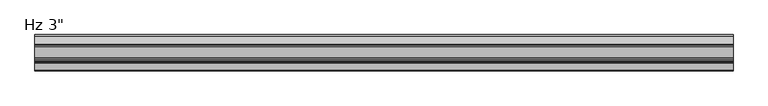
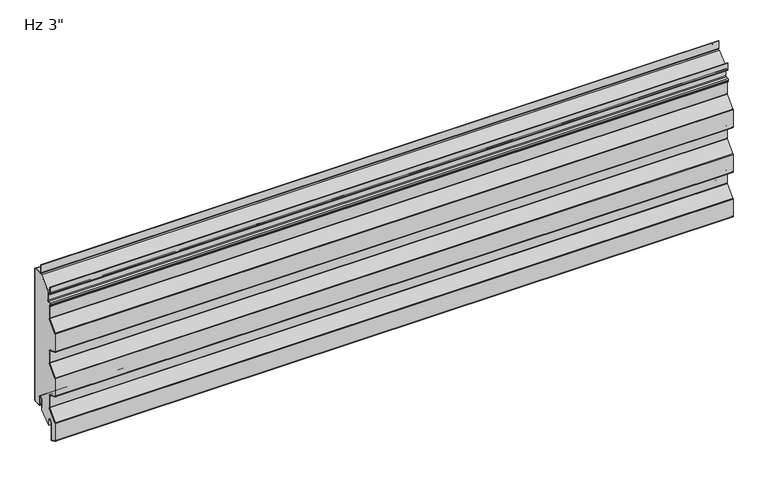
"""IFC4 building model written with IfcOpenShell, lengths in millimetres: plate geometry."""

from ifc_helpers import new_model, si_unit, point, frame, frame_2d, origin, place, context, project, spatial, polyline, circle_curve, trimmed, segment, composite_curve, outline, extrude, source, transform, mapped, element, save


def plate_03a4a3e5(model_context):
    return source(origin(), model_context, "Body", "SweptSolid", [
        extrude(outline(composite_curve([segment(polyline([(-26.4011912, 19.05), (-26.4011912, -3.1976612), (-49.233822, -23.01875), (-51.3886912, -23.01875), (-51.3886912, -11.90625)]), True, "CONTINUOUS"), segment(trimmed(circle_curve(frame_2d((-56.3574412, -11.90625)), 4.96875), [point((-51.3886912, -11.90625))], [point((-61.3261912, -11.90625))], True, "CARTESIAN"), True, "CONTINUOUS"), segment(polyline([(-61.3261912, -11.90625), (-61.3261912, -48.8194049)]), True, "CONTINUOUS"), segment(trimmed(circle_curve(frame_2d((-62.7074412, -48.8194049)), 1.38125), [point((-61.3261912, -48.8194049))], [point((-63.2666208, -50.0824052))], False, "CARTESIAN"), True, "CONTINUOUS"), segment(polyline([(-63.2666208, -50.0824052), (-74.3779296, -45.1629946)]), True, "CONTINUOUS"), segment(trimmed(circle_curve(frame_2d((-73.81875, -43.8999943)), 1.38125), [point((-74.3779296, -45.1629946))], [point((-75.2, -43.8999943))], False, "CARTESIAN"), True, "CONTINUOUS"), segment(polyline([(-75.2, -43.8999943), (-75.2, -5.0536946)]), True, "CONTINUOUS"), segment(trimmed(circle_curve(frame_2d((-73.1012, -5.0536946)), 2.0988), [point((-75.2, -5.0536946))], [point((-74.6092077, -3.5939431))], False, "CARTESIAN"), True, "CONTINUOUS"), segment(polyline([(-74.6092077, -3.5939431), (-54.4145567, 17.2682996)]), True, "CONTINUOUS"), segment(trimmed(circle_curve(frame_2d((-56.2737, 19.0679503)), 2.5875), [point((-54.4145567, 17.2682996))], [point((-53.6862, 19.0679503))], True, "CARTESIAN"), True, "CONTINUOUS"), segment(polyline([(-53.6862, 19.0679503), (-53.6862, 45.5917981)]), True, "CONTINUOUS"), segment(trimmed(circle_curve(frame_2d((-56.2737, 45.5917981)), 2.5875), [point((-53.6862, 45.5917981))], [point((-55.2261871, 47.9577806))], True, "CARTESIAN"), True, "CONTINUOUS"), segment(polyline([(-55.2261871, 47.9577806), (-74.3779296, 56.4370054)]), True, "CONTINUOUS"), segment(trimmed(circle_curve(frame_2d((-73.81875, 57.7000057)), 1.38125), [point((-74.3779296, 56.4370054))], [point((-75.2, 57.7000057))], False, "CARTESIAN"), True, "CONTINUOUS"), segment(polyline([(-75.2, 57.7000057), (-75.2, 96.8367131)]), True, "CONTINUOUS"), segment(trimmed(circle_curve(frame_2d((-73.81875, 96.8367131)), 1.38125), [point((-75.2, 96.8367131))], [point((-74.8111912, 97.7973962))], False, "CARTESIAN"), True, "CONTINUOUS"), segment(polyline([(-74.8111912, 97.7973962), (-54.4145567, 118.8682996)]), True, "CONTINUOUS"), segment(trimmed(circle_curve(frame_2d((-56.2737, 120.6679503)), 2.5875), [point((-54.4145567, 118.8682996))], [point((-53.6862, 120.6679503))], True, "CARTESIAN"), True, "CONTINUOUS"), segment(polyline([(-53.6862, 120.6679503), (-53.6862, 147.1917981)]), True, "CONTINUOUS"), segment(trimmed(circle_curve(frame_2d((-56.2737, 147.1917981)), 2.5875), [point((-53.6862, 147.1917981))], [point((-55.2261871, 149.5577806))], True, "CARTESIAN"), True, "CONTINUOUS"), segment(polyline([(-55.2261871, 149.5577806), (-74.3779296, 158.0370054)]), True, "CONTINUOUS"), segment(trimmed(circle_curve(frame_2d((-73.81875, 159.3000057)), 1.38125), [point((-74.3779296, 158.0370054))], [point((-75.2, 159.3000057))], False, "CARTESIAN"), True, "CONTINUOUS"), segment(polyline([(-75.2, 159.3000057), (-75.2, 198.4367131)]), True, "CONTINUOUS"), segment(trimmed(circle_curve(frame_2d((-73.81875, 198.4367131)), 1.38125), [point((-75.2, 198.4367131))], [point((-74.8111912, 199.3973962))], False, "CARTESIAN"), True, "CONTINUOUS"), segment(polyline([(-74.8111912, 199.3973962), (-54.4145567, 220.4682996)]), True, "CONTINUOUS"), segment(trimmed(circle_curve(frame_2d((-56.2737, 222.2679503)), 2.5875), [point((-54.4145567, 220.4682996))], [point((-53.6862, 222.2679503))], True, "CARTESIAN"), True, "CONTINUOUS"), segment(polyline([(-53.6862, 222.2679503), (-53.6862, 248.7917981)]), True, "CONTINUOUS"), segment(trimmed(circle_curve(frame_2d((-56.2737, 248.7917981)), 2.5875), [point((-53.6862, 248.7917981))], [point((-55.2261871, 251.1577806))], True, "CARTESIAN"), True, "CONTINUOUS"), segment(polyline([(-55.2261871, 251.1577806), (-56.9166208, 251.9062016)]), True, "CONTINUOUS"), segment(trimmed(circle_curve(frame_2d((-56.3574412, 253.1692019)), 1.38125), [point((-56.9166208, 251.9062016))], [point((-57.7386912, 253.1692019))], False, "CARTESIAN"), True, "CONTINUOUS"), segment(polyline([(-57.7386912, 253.1692019), (-57.7386912, 255.4967085)]), True, "CONTINUOUS"), segment(trimmed(circle_curve(frame_2d((-56.3574412, 255.4967085)), 1.38125), [point((-57.7386912, 255.4967085))], [point((-56.4297302, 256.8760655))], False, "CARTESIAN"), True, "CONTINUOUS"), segment(polyline([(-56.4297302, 256.8760655), (-50.6657719, 257.1781418)]), True, "CONTINUOUS"), segment(trimmed(circle_curve(frame_2d((-50.8011912, 259.7620957)), 2.5875), [point((-50.6657719, 257.1781418))], [point((-48.2136912, 259.7620957))], True, "CARTESIAN"), True, "CONTINUOUS"), segment(polyline([(-48.2136912, 259.7620957), (-48.2136912, 282.1892934), (-24.8719682, 303.00625), (-2.3824412, 303.00625)]), True, "CONTINUOUS"), segment(trimmed(circle_curve(frame_2d((-2.3824412, 301.625)), 1.38125), [point((-2.3824412, 303.00625))], [point((-1.0011912, 301.625))], False, "CARTESIAN"), True, "CONTINUOUS"), segment(polyline([(-1.0011912, 301.625), (-1.0011912, 3.175)]), True, "CONTINUOUS"), segment(trimmed(circle_curve(frame_2d((-2.3824412, 3.175)), 1.38125), [point((-1.0011912, 3.175))], [point((-2.3824412, 1.79375))], False, "CARTESIAN"), True, "CONTINUOUS"), segment(polyline([(-2.3824412, 1.79375), (-15.0824412, 1.79375)]), True, "CONTINUOUS"), segment(trimmed(circle_curve(frame_2d((-15.0824412, 3.175)), 1.38125), [point((-15.0824412, 1.79375))], [point((-16.4636912, 3.175))], False, "CARTESIAN"), True, "CONTINUOUS"), segment(polyline([(-16.4636912, 3.175), (-16.4636912, 19.05)]), True, "CONTINUOUS"), segment(trimmed(circle_curve(frame_2d((-21.4324412, 19.05)), 4.96875), [point((-16.4636912, 19.05))], [point((-26.4011912, 19.05))], True, "CARTESIAN"), True, "CONTINUOUS")], self_intersect=False)), frame((-730.0, 0.0, 0.0), z_axis=(1.0, 0.0, 0.0), x_axis=(0.0, 1.0, 0.0)), (0.0, 0.0, 1.0), 1460.0),
        extrude(outline(composite_curve([segment(polyline([(-25.4, 0.79375), (-26.4, 0.79375), (-26.4, 19.05)]), True, "CONTINUOUS"), segment(trimmed(circle_curve(frame_2d((-21.43125, 19.05)), 4.96875), [point((-26.4, 19.05))], [point((-16.4625, 19.05))], False, "CARTESIAN"), True, "CONTINUOUS"), segment(polyline([(-16.4625, 19.05), (-16.4625, 3.175)]), True, "CONTINUOUS"), segment(trimmed(circle_curve(frame_2d((-15.08125, 3.175)), 1.38125), [point((-16.4625, 3.175))], [point((-15.08125, 1.79375))], True, "CARTESIAN"), True, "CONTINUOUS"), segment(polyline([(-15.08125, 1.79375), (-2.38125, 1.79375)]), True, "CONTINUOUS"), segment(trimmed(circle_curve(frame_2d((-2.38125, 3.175)), 1.38125), [point((-2.38125, 1.79375))], [point((-1.0, 3.175))], True, "CARTESIAN"), True, "CONTINUOUS"), segment(polyline([(-1.0, 3.175), (-1.0, 301.625)]), True, "CONTINUOUS"), segment(trimmed(circle_curve(frame_2d((-2.38125, 301.625)), 1.38125), [point((-1.0, 301.625))], [point((-2.38125, 303.00625))], True, "CARTESIAN"), True, "CONTINUOUS"), segment(polyline([(-2.38125, 303.00625), (-19.446875, 303.00625)]), True, "CONTINUOUS"), segment(trimmed(circle_curve(frame_2d((-19.446875, 305.59375)), 2.5875), [point((-19.446875, 303.00625))], [point((-22.034375, 305.59375))], False, "CARTESIAN"), True, "CONTINUOUS"), segment(polyline([(-22.034375, 305.59375), (-22.034375, 323.05625), (-21.034375, 323.05625), (-21.034375, 305.59375)]), True, "CONTINUOUS"), segment(trimmed(circle_curve(frame_2d((-19.446875, 305.59375)), 1.5875), [point((-21.034375, 305.59375))], [point((-19.446875, 304.00625))], True, "CARTESIAN"), True, "CONTINUOUS"), segment(polyline([(-19.446875, 304.00625), (-2.38125, 304.00625)]), True, "CONTINUOUS"), segment(trimmed(circle_curve(frame_2d((-2.38125, 301.625)), 2.38125), [point((-2.38125, 304.00625))], [point((0.0, 301.625))], False, "CARTESIAN"), True, "CONTINUOUS"), segment(polyline([(0.0, 301.625), (0.0, 3.175)]), True, "CONTINUOUS"), segment(trimmed(circle_curve(frame_2d((-2.38125, 3.175)), 2.38125), [point((0.0, 3.175))], [point((-2.38125, 0.79375))], False, "CARTESIAN"), True, "CONTINUOUS"), segment(polyline([(-2.38125, 0.79375), (-15.08125, 0.79375)]), True, "CONTINUOUS"), segment(trimmed(circle_curve(frame_2d((-15.08125, 3.175)), 2.38125), [point((-15.08125, 0.79375))], [point((-17.4625, 3.175))], False, "CARTESIAN"), True, "CONTINUOUS"), segment(polyline([(-17.4625, 3.175), (-17.4625, 19.05)]), True, "CONTINUOUS"), segment(trimmed(circle_curve(frame_2d((-21.43125, 19.05)), 3.96875), [point((-17.4625, 19.05))], [point((-25.4, 19.05))], True, "CARTESIAN"), True, "CONTINUOUS"), segment(polyline([(-25.4, 19.05), (-25.4, 0.79375)]), True, "CONTINUOUS")], self_intersect=False)), frame((-730.0, 0.0, 0.0), z_axis=(1.0, 0.0, 0.0), x_axis=(0.0, 1.0, 0.0)), (0.0, 0.0, 1.0), 1460.0),
        extrude(outline(composite_curve([segment(polyline([(-60.3261912, -11.90625), (-60.3261912, -48.8194049)]), True, "CONTINUOUS"), segment(trimmed(circle_curve(frame_2d((-62.7074412, -48.8194049)), 2.38125), [point((-60.3261912, -48.8194049))], [point((-63.6714567, -50.9967946))], False, "CARTESIAN"), True, "CONTINUOUS"), segment(polyline([(-63.6714567, -50.9967946), (-74.7827655, -46.0773839)]), True, "CONTINUOUS"), segment(trimmed(circle_curve(frame_2d((-73.81875, -43.8999943)), 2.38125), [point((-74.7827655, -46.0773839))], [point((-76.2, -43.8999943))], False, "CARTESIAN"), True, "CONTINUOUS"), segment(polyline([(-76.2, -43.8999943), (-76.2, -5.0536946)]), True, "CONTINUOUS"), segment(trimmed(circle_curve(frame_2d((-73.1012, -5.0536946)), 3.0988), [point((-76.2, -5.0536946))], [point((-75.3277172, -2.8984259))], False, "CARTESIAN"), True, "CONTINUOUS"), segment(polyline([(-75.3277172, -2.8984259), (-55.1330662, 17.9638168)]), True, "CONTINUOUS"), segment(trimmed(circle_curve(frame_2d((-56.2737, 19.0679503)), 1.5875), [point((-55.1330662, 17.9638168))], [point((-54.6862, 19.0679503))], True, "CARTESIAN"), True, "CONTINUOUS"), segment(polyline([(-54.6862, 19.0679503), (-54.6862, 45.5917981)]), True, "CONTINUOUS"), segment(trimmed(circle_curve(frame_2d((-56.2737, 45.5917981)), 1.5875), [point((-54.6862, 45.5917981))], [point((-55.631023, 47.0433912))], True, "CARTESIAN"), True, "CONTINUOUS"), segment(polyline([(-55.631023, 47.0433912), (-74.7827655, 55.5226161)]), True, "CONTINUOUS"), segment(trimmed(circle_curve(frame_2d((-73.81875, 57.7000057)), 2.38125), [point((-74.7827655, 55.5226161))], [point((-76.2, 57.7000057))], False, "CARTESIAN"), True, "CONTINUOUS"), segment(polyline([(-76.2, 57.7000057), (-76.2, 96.8367131)]), True, "CONTINUOUS"), segment(trimmed(circle_curve(frame_2d((-73.81875, 96.8367131)), 2.38125), [point((-76.2, 96.8367131))], [point((-75.5297007, 98.4929134))], False, "CARTESIAN"), True, "CONTINUOUS"), segment(polyline([(-75.5297007, 98.4929134), (-55.1330662, 119.5638168)]), True, "CONTINUOUS"), segment(trimmed(circle_curve(frame_2d((-56.2737, 120.6679503)), 1.5875), [point((-55.1330662, 119.5638168))], [point((-54.6862, 120.6679503))], True, "CARTESIAN"), True, "CONTINUOUS"), segment(polyline([(-54.6862, 120.6679503), (-54.6862, 147.1917981)]), True, "CONTINUOUS"), segment(trimmed(circle_curve(frame_2d((-56.2737, 147.1917981)), 1.5875), [point((-54.6862, 147.1917981))], [point((-55.631023, 148.6433912))], True, "CARTESIAN"), True, "CONTINUOUS"), segment(polyline([(-55.631023, 148.6433912), (-74.7827655, 157.1226161)]), True, "CONTINUOUS"), segment(trimmed(circle_curve(frame_2d((-73.81875, 159.3000057)), 2.38125), [point((-74.7827655, 157.1226161))], [point((-76.2, 159.3000057))], False, "CARTESIAN"), True, "CONTINUOUS"), segment(polyline([(-76.2, 159.3000057), (-76.2, 198.4367131)]), True, "CONTINUOUS"), segment(trimmed(circle_curve(frame_2d((-73.81875, 198.4367131)), 2.38125), [point((-76.2, 198.4367131))], [point((-75.5297007, 200.0929134))], False, "CARTESIAN"), True, "CONTINUOUS"), segment(polyline([(-75.5297007, 200.0929134), (-55.1330662, 221.1638168)]), True, "CONTINUOUS"), segment(trimmed(circle_curve(frame_2d((-56.2737, 222.2679503)), 1.5875), [point((-55.1330662, 221.1638168))], [point((-54.6862, 222.2679503))], True, "CARTESIAN"), True, "CONTINUOUS"), segment(polyline([(-54.6862, 222.2679503), (-54.6862, 248.7917981)]), True, "CONTINUOUS"), segment(trimmed(circle_curve(frame_2d((-56.2737, 248.7917981)), 1.5875), [point((-54.6862, 248.7917981))], [point((-55.631023, 250.2433912))], True, "CARTESIAN"), True, "CONTINUOUS"), segment(polyline([(-55.631023, 250.2433912), (-57.3214567, 250.9918123)]), True, "CONTINUOUS"), segment(trimmed(circle_curve(frame_2d((-56.3574412, 253.1692019)), 2.38125), [point((-57.3214567, 250.9918123))], [point((-58.7386912, 253.1692019))], False, "CARTESIAN"), True, "CONTINUOUS"), segment(polyline([(-58.7386912, 253.1692019), (-58.7386912, 255.4967085)]), True, "CONTINUOUS"), segment(trimmed(circle_curve(frame_2d((-56.3574412, 255.4967085)), 2.38125), [point((-58.7386912, 255.4967085))], [point((-56.4820662, 257.8746951))], False, "CARTESIAN"), True, "CONTINUOUS"), segment(polyline([(-56.4820662, 257.8746951), (-50.7181078, 258.1767713)]), True, "CONTINUOUS"), segment(trimmed(circle_curve(frame_2d((-50.8011912, 259.7620957)), 1.5875), [point((-50.7181078, 258.1767713))], [point((-49.2136912, 259.7620957))], True, "CARTESIAN"), True, "CONTINUOUS"), segment(polyline([(-49.2136912, 259.7620957), (-49.2136912, 274.6375)]), True, "CONTINUOUS"), segment(trimmed(circle_curve(frame_2d((-50.8011912, 274.6375)), 1.5875), [point((-49.2136912, 274.6375))], [point((-50.8011912, 276.225))], True, "CARTESIAN"), True, "CONTINUOUS"), segment(polyline([(-50.8011912, 276.225), (-54.3730662, 276.225)]), True, "CONTINUOUS"), segment(trimmed(circle_curve(frame_2d((-54.3730662, 278.60625)), 2.38125), [point((-54.3730662, 276.225))], [point((-56.7543162, 278.60625))], False, "CARTESIAN"), True, "CONTINUOUS"), segment(polyline([(-56.7543162, 278.60625), (-56.7543162, 292.89375), (-55.7543162, 292.89375), (-55.7543162, 278.60625)]), True, "CONTINUOUS"), segment(trimmed(circle_curve(frame_2d((-54.3730662, 278.60625)), 1.38125), [point((-55.7543162, 278.60625))], [point((-54.3730662, 277.225))], True, "CARTESIAN"), True, "CONTINUOUS"), segment(polyline([(-54.3730662, 277.225), (-50.8011912, 277.225)]), True, "CONTINUOUS"), segment(trimmed(circle_curve(frame_2d((-50.8011912, 274.6375)), 2.5875), [point((-50.8011912, 277.225))], [point((-48.2136912, 274.6375))], False, "CARTESIAN"), True, "CONTINUOUS"), segment(polyline([(-48.2136912, 274.6375), (-48.2136912, 259.7620957)]), True, "CONTINUOUS"), segment(trimmed(circle_curve(frame_2d((-50.8011912, 259.7620957)), 2.5875), [point((-48.2136912, 259.7620957))], [point((-50.6657719, 257.1781418))], False, "CARTESIAN"), True, "CONTINUOUS"), segment(polyline([(-50.6657719, 257.1781418), (-56.4297302, 256.8760655)]), True, "CONTINUOUS"), segment(trimmed(circle_curve(frame_2d((-56.3574412, 255.4967085)), 1.38125), [point((-56.4297302, 256.8760655))], [point((-57.7386912, 255.4967085))], True, "CARTESIAN"), True, "CONTINUOUS"), segment(polyline([(-57.7386912, 255.4967085), (-57.7386912, 253.1692019)]), True, "CONTINUOUS"), segment(trimmed(circle_curve(frame_2d((-56.3574412, 253.1692019)), 1.38125), [point((-57.7386912, 253.1692019))], [point((-56.9166208, 251.9062016))], True, "CARTESIAN"), True, "CONTINUOUS"), segment(polyline([(-56.9166208, 251.9062016), (-55.2261871, 251.1577806)]), True, "CONTINUOUS"), segment(trimmed(circle_curve(frame_2d((-56.2737, 248.7917981)), 2.5875), [point((-55.2261871, 251.1577806))], [point((-53.6862, 248.7917981))], False, "CARTESIAN"), True, "CONTINUOUS"), segment(polyline([(-53.6862, 248.7917981), (-53.6862, 222.2679503)]), True, "CONTINUOUS"), segment(trimmed(circle_curve(frame_2d((-56.2737, 222.2679503)), 2.5875), [point((-53.6862, 222.2679503))], [point((-54.4145567, 220.4682996))], False, "CARTESIAN"), True, "CONTINUOUS"), segment(polyline([(-54.4145567, 220.4682996), (-74.8111912, 199.3973962)]), True, "CONTINUOUS"), segment(trimmed(circle_curve(frame_2d((-73.81875, 198.4367131)), 1.38125), [point((-74.8111912, 199.3973962))], [point((-75.2, 198.4367131))], True, "CARTESIAN"), True, "CONTINUOUS"), segment(polyline([(-75.2, 198.4367131), (-75.2, 159.3000057)]), True, "CONTINUOUS"), segment(trimmed(circle_curve(frame_2d((-73.81875, 159.3000057)), 1.38125), [point((-75.2, 159.3000057))], [point((-74.3779296, 158.0370054))], True, "CARTESIAN"), True, "CONTINUOUS"), segment(polyline([(-74.3779296, 158.0370054), (-55.2261871, 149.5577806)]), True, "CONTINUOUS"), segment(trimmed(circle_curve(frame_2d((-56.2737, 147.1917981)), 2.5875), [point((-55.2261871, 149.5577806))], [point((-53.6862, 147.1917981))], False, "CARTESIAN"), True, "CONTINUOUS"), segment(polyline([(-53.6862, 147.1917981), (-53.6862, 120.6679503)]), True, "CONTINUOUS"), segment(trimmed(circle_curve(frame_2d((-56.2737, 120.6679503)), 2.5875), [point((-53.6862, 120.6679503))], [point((-54.4145567, 118.8682996))], False, "CARTESIAN"), True, "CONTINUOUS"), segment(polyline([(-54.4145567, 118.8682996), (-74.8111912, 97.7973962)]), True, "CONTINUOUS"), segment(trimmed(circle_curve(frame_2d((-73.81875, 96.8367131)), 1.38125), [point((-74.8111912, 97.7973962))], [point((-75.2, 96.8367131))], True, "CARTESIAN"), True, "CONTINUOUS"), segment(polyline([(-75.2, 96.8367131), (-75.2, 57.7000057)]), True, "CONTINUOUS"), segment(trimmed(circle_curve(frame_2d((-73.81875, 57.7000057)), 1.38125), [point((-75.2, 57.7000057))], [point((-74.3779296, 56.4370054))], True, "CARTESIAN"), True, "CONTINUOUS"), segment(polyline([(-74.3779296, 56.4370054), (-55.2261871, 47.9577806)]), True, "CONTINUOUS"), segment(trimmed(circle_curve(frame_2d((-56.2737, 45.5917981)), 2.5875), [point((-55.2261871, 47.9577806))], [point((-53.6862, 45.5917981))], False, "CARTESIAN"), True, "CONTINUOUS"), segment(polyline([(-53.6862, 45.5917981), (-53.6862, 19.0679503)]), True, "CONTINUOUS"), segment(trimmed(circle_curve(frame_2d((-56.2737, 19.0679503)), 2.5875), [point((-53.6862, 19.0679503))], [point((-54.4145567, 17.2682996))], False, "CARTESIAN"), True, "CONTINUOUS"), segment(polyline([(-54.4145567, 17.2682996), (-74.6092077, -3.5939431)]), True, "CONTINUOUS"), segment(trimmed(circle_curve(frame_2d((-73.1012, -5.0536946)), 2.0988), [point((-74.6092077, -3.5939431))], [point((-75.2, -5.0536946))], True, "CARTESIAN"), True, "CONTINUOUS"), segment(polyline([(-75.2, -5.0536946), (-75.2, -43.8999943)]), True, "CONTINUOUS"), segment(trimmed(circle_curve(frame_2d((-73.81875, -43.8999943)), 1.38125), [point((-75.2, -43.8999943))], [point((-74.3779296, -45.1629946))], True, "CARTESIAN"), True, "CONTINUOUS"), segment(polyline([(-74.3779296, -45.1629946), (-63.2666208, -50.0824052)]), True, "CONTINUOUS"), segment(trimmed(circle_curve(frame_2d((-62.7074412, -48.8194049)), 1.38125), [point((-63.2666208, -50.0824052))], [point((-61.3261912, -48.8194049))], True, "CARTESIAN"), True, "CONTINUOUS"), segment(polyline([(-61.3261912, -48.8194049), (-61.3261912, -11.90625)]), True, "CONTINUOUS"), segment(trimmed(circle_curve(frame_2d((-56.3574412, -11.90625)), 4.96875), [point((-61.3261912, -11.90625))], [point((-51.3886912, -11.90625))], False, "CARTESIAN"), True, "CONTINUOUS"), segment(polyline([(-51.3886912, -11.90625), (-51.3886912, -23.01875), (-52.3886912, -23.01875), (-52.3886912, -11.90625)]), True, "CONTINUOUS"), segment(trimmed(circle_curve(frame_2d((-56.3574412, -11.90625)), 3.96875), [point((-52.3886912, -11.90625))], [point((-60.3261912, -11.90625))], True, "CARTESIAN"), True, "CONTINUOUS")], self_intersect=False)), frame((-730.0, 0.0, 0.0), z_axis=(1.0, 0.0, 0.0), x_axis=(0.0, 1.0, 0.0)), (0.0, 0.0, 1.0), 1460.0),
    ])


if __name__ == "__main__":
    model = new_model("IFC4")
    model_context = context("Model", 3, world=origin())
    ifc_project = project(units=[si_unit("LENGTHUNIT", "METRE", prefix="MILLI")], contexts=[model_context])
    site = spatial("IfcSite", under=ifc_project)
    building = spatial("IfcBuilding", under=site)
    placement = place(None, origin())
    plate_shape = plate_03a4a3e5(model_context)
    element("IfcPlate", 1, ObjectType="KIP-12-DWR-R19-CP-Hz-S : Hz 3\"", at=placement, inside=building, context=model_context, shape_type="MappedRepresentation", body=[
        mapped(plate_shape, transform((0.0, 0.0, 0.0), x_axis=(1.0, 0.0, 0.0), y_axis=(0.0, 1.0, 0.0), z_axis=(0.0, 0.0, 1.0))),
    ])
    save(model, "model.ifc")
